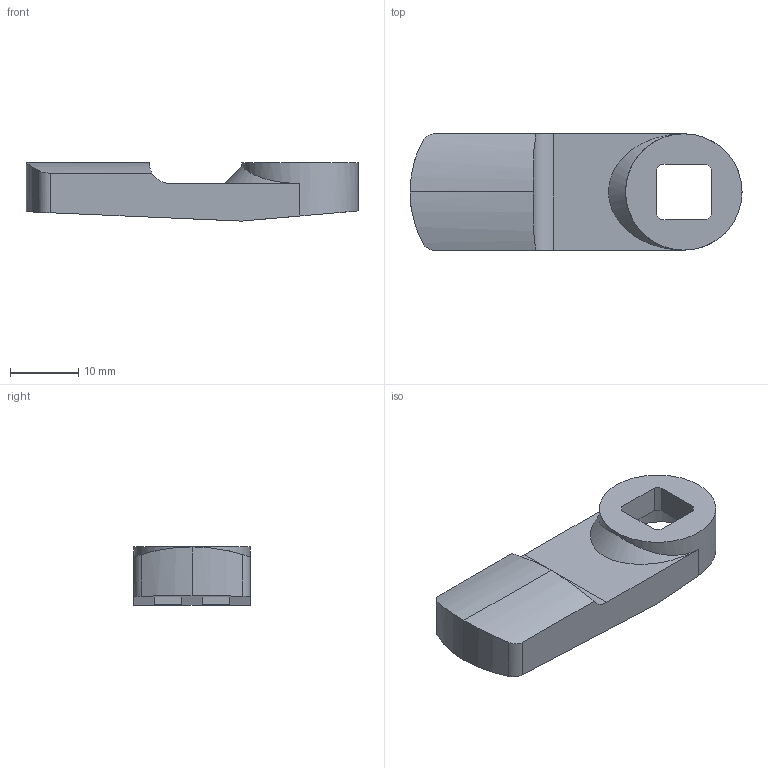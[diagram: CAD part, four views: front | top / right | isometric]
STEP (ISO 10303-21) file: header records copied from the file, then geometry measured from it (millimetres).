
FILE_DESCRIPTION (( 'STEP AP214' ), '1' );
FILE_NAME ('JP-10018.STEP', '2016-08-17T10:01:37', ( 'RST-Dolba' ), ( '' ), 'SwSTEP 2.0', 'SolidWorks 2015', '' );
FILE_SCHEMA (( 'AUTOMOTIVE_DESIGN' ));
Length unit declared in the file: millimetre
Products named in the file (1): JP-10018
Bounding box: 48.5 x 17 x 8.5 mm (x, y, z)
Volume: 3809 mm3; surface area: 2898.6 mm2
Topology: 1 solids, 1 shells, 49 faces, 129 edges, 85 vertices
Faces by surface type: plane 25, cylinder 23, bspline 1
Entity records: 1722 total; most frequent: CARTESIAN_POINT 484, ORIENTED_EDGE 258, DIRECTION 240, EDGE_CURVE 129, VERTEX_POINT 85, LINE 82, VECTOR 82, AXIS2_PLACEMENT_3D 79
